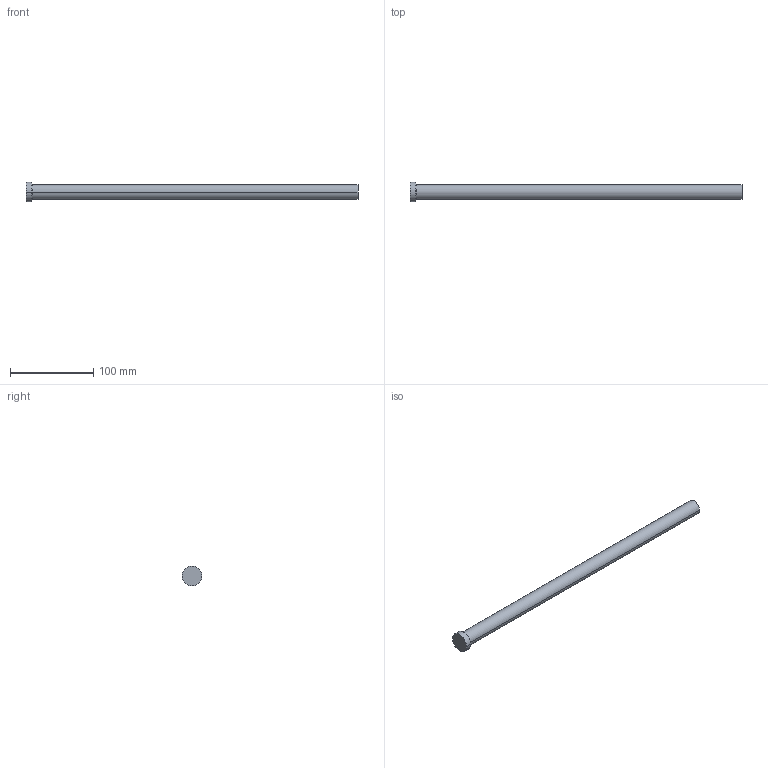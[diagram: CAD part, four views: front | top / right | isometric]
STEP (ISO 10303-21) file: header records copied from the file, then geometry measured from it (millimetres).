
FILE_DESCRIPTION (( 'STEP AP214' ), '1' );
FILE_NAME ('A-18x400.STEP', '2020-05-29T16:22:42', ( 'August' ), ( '' ), 'SwSTEP 2.0', 'SolidWorks 2018', '' );
FILE_SCHEMA (( 'AUTOMOTIVE_DESIGN' ));
Length unit declared in the file: millimetre
Products named in the file (1): A-18x400
Bounding box: 400 x 24 x 24 mm (x, y, z)
Volume: 103181 mm3; surface area: 23637.1 mm2
Topology: 1 solids, 1 shells, 9 faces, 16 edges, 10 vertices
Faces by surface type: cylinder 4, plane 3, torus 2
Entity records: 260 total; most frequent: DIRECTION 48, CARTESIAN_POINT 36, ORIENTED_EDGE 32, AXIS2_PLACEMENT_3D 22, EDGE_CURVE 16, CIRCLE 12, VERTEX_POINT 10, EDGE_LOOP 10
